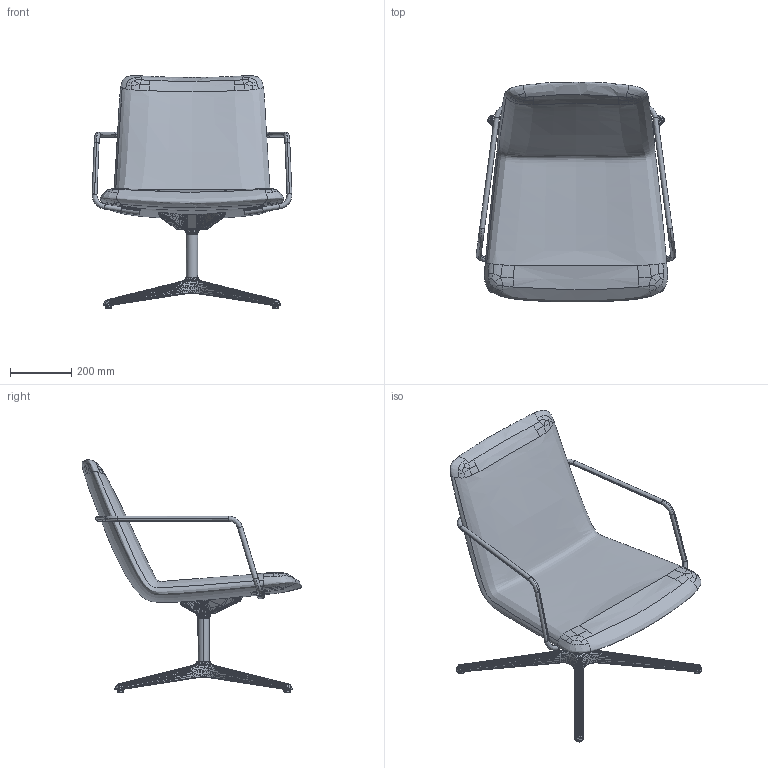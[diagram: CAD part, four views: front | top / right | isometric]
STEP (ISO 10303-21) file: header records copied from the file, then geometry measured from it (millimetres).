
FILE_DESCRIPTION(/* description */ (''),/* implementation_level */ '2;1');
FILE_NAME(/* name */ 'FAN-CH~2',/* time_stamp */ '2021-08-28T10:56:55+08:00',/* author */ (''),/* organization */ (''),/* preprocessor_version */ 'ST-DEVELOPER v16.5',/* originating_system */ '',/* authorisation */ '');
FILE_SCHEMA (('CONFIG_CONTROL_DESIGN'));
Products named in the file (1): Document
Bounding box: 651.62 x 716.12 x 757.97 mm (x, y, z)
Volume: 31539998.1 mm3; surface area: 1564657.9 mm2
Topology: 13 solids, 13 shells, 7351 faces, 11768 edges, 4432 vertices
Faces by surface type: bspline 7259, cylinder 60, plane 32
Entity records: 147768 total; most frequent: CARTESIAN_POINT 66764, ORIENTED_EDGE 23534, EDGE_CURVE 11767, B_SPLINE_CURVE_WITH_KNOTS 11565, EDGE_LOOP 7371, ADVANCED_FACE 7351, FACE_OUTER_BOUND 7351, B_SPLINE_SURFACE_WITH_KNOTS 7221
